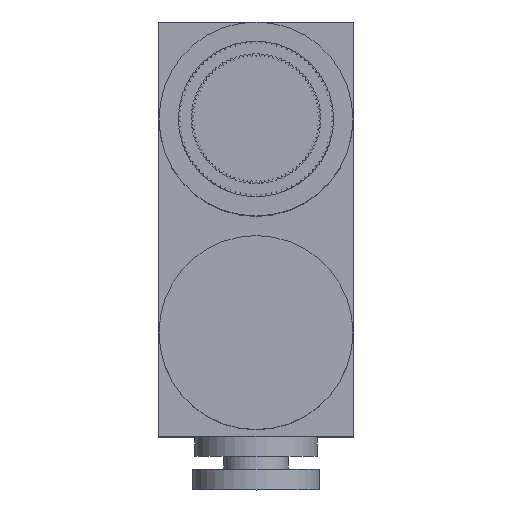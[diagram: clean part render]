
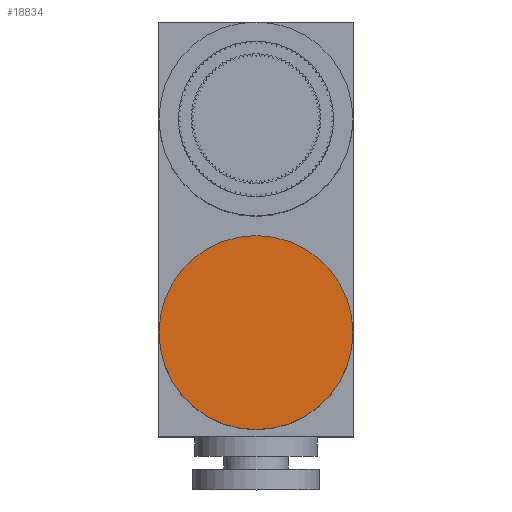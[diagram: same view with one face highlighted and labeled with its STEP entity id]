
A CAD part, top view. The second image highlights one B-rep face of the part: STEP entity #18834.
In plain terms, the highlighted planar face has unit normal (0, 0, 1).
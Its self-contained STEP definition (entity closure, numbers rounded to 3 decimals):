
#18811=CARTESIAN_POINT('',(7.5,-8.,41.9));
#18812=VERTEX_POINT('',#18811);
#18813=CARTESIAN_POINT('',(0.0,-8.0,41.9));
#18814=DIRECTION('',(0.0,0.0,-1.0));
#18815=DIRECTION('',(-1.0,0.0,0.0));
#18816=AXIS2_PLACEMENT_3D('',#18813,#18814,#18815);
#18817=CIRCLE('',#18816,7.5);
#18818=EDGE_CURVE('',#18812,#18812,#18817,.T.);
#18826=CARTESIAN_POINT('',(0.0,-8.0,41.9));
#18827=DIRECTION('',(0.0,0.0,-1.0));
#18828=DIRECTION('',(-1.0,0.0,0.0));
#18829=AXIS2_PLACEMENT_3D('',#18826,#18827,#18828);
#18830=PLANE('',#18829);
#18831=ORIENTED_EDGE('',*,*,#18818,.F.);
#18832=EDGE_LOOP('',(#18831));
#18833=FACE_OUTER_BOUND('',#18832,.T.);
#18834=ADVANCED_FACE('',(#18833),#18830,.F.);
